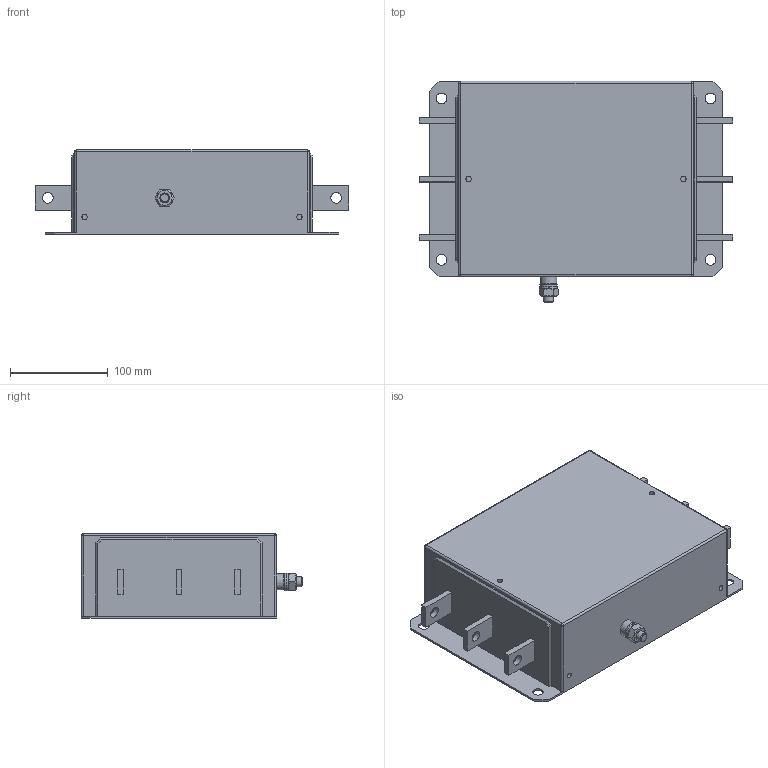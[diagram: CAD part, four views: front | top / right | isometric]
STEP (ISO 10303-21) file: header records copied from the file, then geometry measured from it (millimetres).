
FILE_DESCRIPTION((''),'2;1');
FILE_NAME('L:\INVENTOR_Projektedaten\HousingDesign\FN3270H-400-99.stp','2012-09-03T11:45:27',('Samuel.Meier'),(''),'Autodesk Inventor 2010','Autodesk Inventor 2010','');
FILE_SCHEMA(('AUTOMOTIVE_DESIGN { 1 2 10303 214 0 1 1 1 }'));
Length unit declared in the file: millimetre
Products named in the file (1): Bauteil16
Bounding box: 320 x 226.5 x 86 mm (x, y, z)
Volume: 4264215.5 mm3; surface area: 210275.4 mm2
Topology: 1 solids, 1 shells, 127 faces, 304 edges, 191 vertices
Faces by surface type: plane 65, bspline 28, cylinder 26, cone 4, sphere 4
Full cylindrical faces by diameter (mm): 5.5 x4, 10 x2, 10.5 x1, 11 x7, 16.5 x1, 18 x1
Entity records: 3743 total; most frequent: CARTESIAN_POINT 766, ORIENTED_EDGE 544, DIRECTION 532, EDGE_CURVE 272, EDGE_LOOP 190, VERTEX_POINT 188, VECTOR 188, LINE 188
